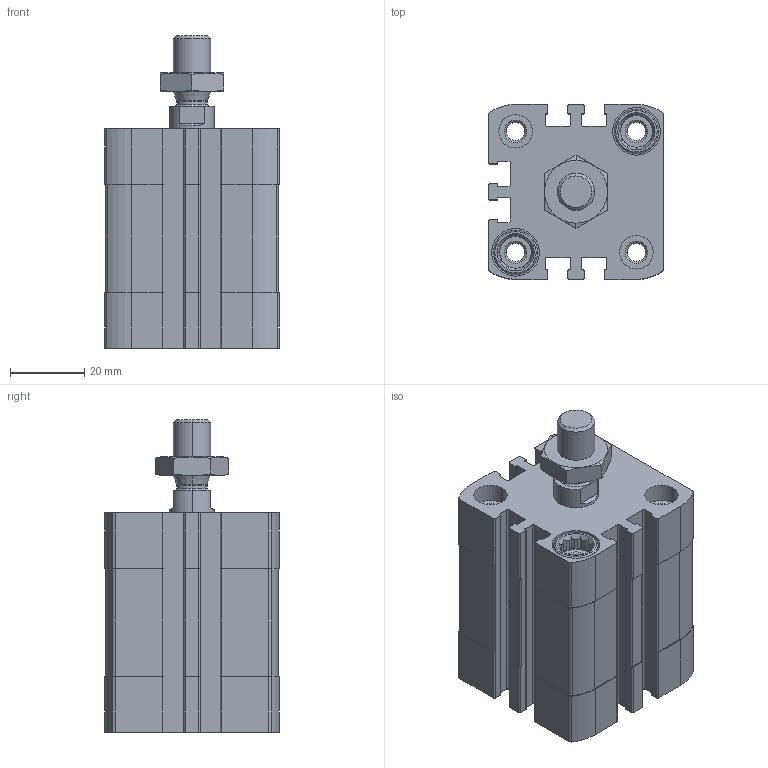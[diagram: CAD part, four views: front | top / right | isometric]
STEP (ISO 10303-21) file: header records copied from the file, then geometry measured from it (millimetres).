
FILE_DESCRIPTION (( 'STEP AP203' ), '1' );
FILE_NAME ('CCN32-15M.STEP', '2017-03-29T13:04:01', ( '' ), ( '' ), 'SwSTEP 2.0', 'SolidWorks 2016', '' );
FILE_SCHEMA (( 'CONFIG_CONTROL_DESIGN' ));
Length unit declared in the file: millimetre
Products named in the file (4): CCN32-15M; CCN-15---(Z); CCN-15_(KS); _DIN-439-B - M10x1.25(F)
Assembly tree (3 placements, depth 2):
  CCN32-15M
    CCN-15---(Z)
    CCN-15_(KS)
    _DIN-439-B - M10x1.25(F)
Bounding box: 47 x 47 x 84 mm (x, y, z)
Volume: 98703.9 mm3; surface area: 36140.8 mm2
Topology: 3 solids, 3 shells, 499 faces, 1334 edges, 872 vertices
Faces by surface type: plane 275, cylinder 172, cone 48, bspline 4
Entity records: 16246 total; most frequent: CARTESIAN_POINT 3119, DIRECTION 2720, ORIENTED_EDGE 2668, EDGE_CURVE 1334, AXIS2_PLACEMENT_3D 997, VERTEX_POINT 872, LINE 726, VECTOR 726
